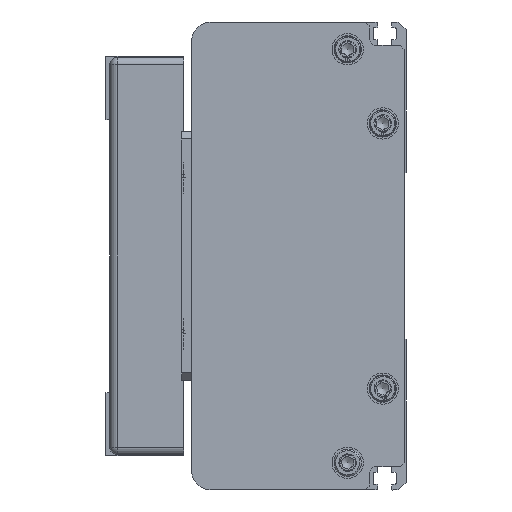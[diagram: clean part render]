
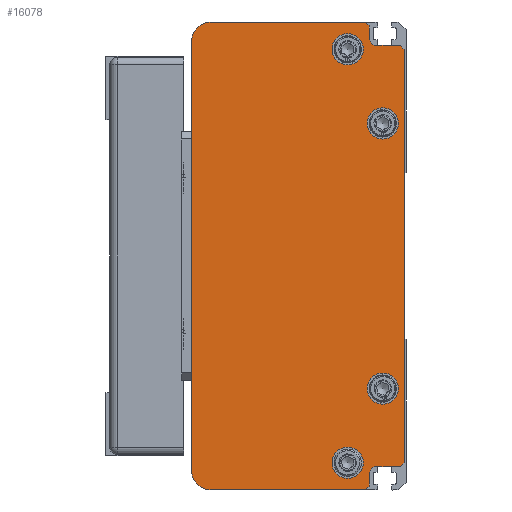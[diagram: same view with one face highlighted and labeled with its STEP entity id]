
A CAD part, left-side view. The second image highlights one B-rep face of the part: STEP entity #16078.
In plain terms, the highlighted planar face has unit normal (-1, 0, 0) as drawn and (0, 0, -1) by its records, which use the part's own axes.
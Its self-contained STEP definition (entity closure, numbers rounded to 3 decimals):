
#852=FACE_BOUND('',#2695,.T.);
#853=FACE_BOUND('',#2696,.T.);
#854=FACE_BOUND('',#2697,.T.);
#855=FACE_BOUND('',#2698,.T.);
#1192=CIRCLE('',#17242,5.);
#1193=CIRCLE('',#17244,5.);
#1194=CIRCLE('',#17245,2.);
#1195=CIRCLE('',#17246,2.);
#1196=CIRCLE('',#17247,4.);
#1197=CIRCLE('',#17248,4.);
#1198=CIRCLE('',#17249,4.);
#1199=CIRCLE('',#17250,4.);
#1640=FACE_OUTER_BOUND('',#2694,.T.);
#2694=EDGE_LOOP('',(#11100,#11101,#11102,#11103,#11104,#11105,#11106,#11107,
#11108,#11109,#11110,#11111,#11112,#11113,#11114,#11115));
#2695=EDGE_LOOP('',(#11116));
#2696=EDGE_LOOP('',(#11117));
#2697=EDGE_LOOP('',(#11118));
#2698=EDGE_LOOP('',(#11119));
#3945=LINE('',#23055,#5480);
#3946=LINE('',#23057,#5481);
#3947=LINE('',#23060,#5482);
#3948=LINE('',#23062,#5483);
#3949=LINE('',#23064,#5484);
#3950=LINE('',#23066,#5485);
#3951=LINE('',#23070,#5486);
#3952=LINE('',#23072,#5487);
#3953=LINE('',#23074,#5488);
#3954=LINE('',#23076,#5489);
#3955=LINE('',#23078,#5490);
#3956=LINE('',#23081,#5491);
#5480=VECTOR('',#18834,1.414);
#5481=VECTOR('',#18835,39.5);
#5482=VECTOR('',#18838,110.);
#5483=VECTOR('',#18839,39.5);
#5484=VECTOR('',#18840,1.414);
#5485=VECTOR('',#18841,3.);
#5486=VECTOR('',#18844,6.);
#5487=VECTOR('',#18845,1.414);
#5488=VECTOR('',#18846,106.);
#5489=VECTOR('',#18847,1.414);
#5490=VECTOR('',#18848,6.);
#5491=VECTOR('',#18851,3.);
#7065=VERTEX_POINT('',#23047);
#7066=VERTEX_POINT('',#23049);
#7067=VERTEX_POINT('',#23053);
#7068=VERTEX_POINT('',#23054);
#7069=VERTEX_POINT('',#23056);
#7070=VERTEX_POINT('',#23058);
#7071=VERTEX_POINT('',#23061);
#7072=VERTEX_POINT('',#23063);
#7073=VERTEX_POINT('',#23065);
#7074=VERTEX_POINT('',#23067);
#7075=VERTEX_POINT('',#23069);
#7076=VERTEX_POINT('',#23071);
#7077=VERTEX_POINT('',#23073);
#7078=VERTEX_POINT('',#23075);
#7079=VERTEX_POINT('',#23077);
#7080=VERTEX_POINT('',#23079);
#7081=VERTEX_POINT('',#23082);
#7082=VERTEX_POINT('',#23084);
#7083=VERTEX_POINT('',#23086);
#7084=VERTEX_POINT('',#23088);
#8677=EDGE_CURVE('',#7065,#7066,#1192,.T.);
#8679=EDGE_CURVE('',#7067,#7068,#3945,.T.);
#8680=EDGE_CURVE('',#7067,#7069,#3946,.T.);
#8681=EDGE_CURVE('',#7070,#7069,#1193,.T.);
#8682=EDGE_CURVE('',#7070,#7066,#3947,.T.);
#8683=EDGE_CURVE('',#7065,#7071,#3948,.T.);
#8684=EDGE_CURVE('',#7072,#7071,#3949,.T.);
#8685=EDGE_CURVE('',#7072,#7073,#3950,.T.);
#8686=EDGE_CURVE('',#7073,#7074,#1194,.T.);
#8687=EDGE_CURVE('',#7074,#7075,#3951,.T.);
#8688=EDGE_CURVE('',#7076,#7075,#3952,.T.);
#8689=EDGE_CURVE('',#7076,#7077,#3953,.T.);
#8690=EDGE_CURVE('',#7078,#7077,#3954,.T.);
#8691=EDGE_CURVE('',#7078,#7079,#3955,.T.);
#8692=EDGE_CURVE('',#7079,#7080,#1195,.T.);
#8693=EDGE_CURVE('',#7080,#7068,#3956,.T.);
#8694=EDGE_CURVE('',#7081,#7081,#1196,.T.);
#8695=EDGE_CURVE('',#7082,#7082,#1197,.T.);
#8696=EDGE_CURVE('',#7083,#7083,#1198,.T.);
#8697=EDGE_CURVE('',#7084,#7084,#1199,.T.);
#11100=ORIENTED_EDGE('',*,*,#8679,.F.);
#11101=ORIENTED_EDGE('',*,*,#8680,.T.);
#11102=ORIENTED_EDGE('',*,*,#8681,.F.);
#11103=ORIENTED_EDGE('',*,*,#8682,.T.);
#11104=ORIENTED_EDGE('',*,*,#8677,.F.);
#11105=ORIENTED_EDGE('',*,*,#8683,.T.);
#11106=ORIENTED_EDGE('',*,*,#8684,.F.);
#11107=ORIENTED_EDGE('',*,*,#8685,.T.);
#11108=ORIENTED_EDGE('',*,*,#8686,.T.);
#11109=ORIENTED_EDGE('',*,*,#8687,.T.);
#11110=ORIENTED_EDGE('',*,*,#8688,.F.);
#11111=ORIENTED_EDGE('',*,*,#8689,.T.);
#11112=ORIENTED_EDGE('',*,*,#8690,.F.);
#11113=ORIENTED_EDGE('',*,*,#8691,.T.);
#11114=ORIENTED_EDGE('',*,*,#8692,.T.);
#11115=ORIENTED_EDGE('',*,*,#8693,.T.);
#11116=ORIENTED_EDGE('',*,*,#8694,.T.);
#11117=ORIENTED_EDGE('',*,*,#8695,.T.);
#11118=ORIENTED_EDGE('',*,*,#8696,.T.);
#11119=ORIENTED_EDGE('',*,*,#8697,.T.);
#15438=PLANE('',#17243);
#16078=ADVANCED_FACE('',(#1640,#852,#853,#854,#855),#15438,.F.);
#17242=AXIS2_PLACEMENT_3D('',#23050,#18829,#18830);
#17243=AXIS2_PLACEMENT_3D('',#23052,#18832,#18833);
#17244=AXIS2_PLACEMENT_3D('',#23059,#18836,#18837);
#17245=AXIS2_PLACEMENT_3D('',#23068,#18842,#18843);
#17246=AXIS2_PLACEMENT_3D('',#23080,#18849,#18850);
#17247=AXIS2_PLACEMENT_3D('',#23083,#18852,#18853);
#17248=AXIS2_PLACEMENT_3D('',#23085,#18854,#18855);
#17249=AXIS2_PLACEMENT_3D('',#23087,#18856,#18857);
#17250=AXIS2_PLACEMENT_3D('',#23089,#18858,#18859);
#18829=DIRECTION('center_axis',(0.,0.,
1.));
#18830=DIRECTION('ref_axis',(0.707,0.707,0.));
#18832=DIRECTION('center_axis',(0.,0.,
1.));
#18833=DIRECTION('ref_axis',(-1.,-0.018,0.));
#18834=DIRECTION('',(0.707,-0.707,0.));
#18835=DIRECTION('',(0.,1.,0.));
#18836=DIRECTION('center_axis',(0.,0.,
1.));
#18837=DIRECTION('ref_axis',(-0.707,0.707,0.));
#18838=DIRECTION('',(1.,0.,0.));
#18839=DIRECTION('',(0.,-1.,0.));
#18840=DIRECTION('',(0.707,0.707,0.));
#18841=DIRECTION('',(-1.,0.,0.));
#18842=DIRECTION('center_axis',(0.,0.,
1.));
#18843=DIRECTION('ref_axis',(0.,-1.,0.));
#18844=DIRECTION('',(0.,-1.,0.));
#18845=DIRECTION('',(0.707,0.707,0.));
#18846=DIRECTION('',(-1.,0.,0.));
#18847=DIRECTION('',(0.707,-0.707,0.));
#18848=DIRECTION('',(0.,1.,0.));
#18849=DIRECTION('center_axis',(0.,0.,
1.));
#18850=DIRECTION('ref_axis',(1.,0.,0.));
#18851=DIRECTION('',(-1.,0.,0.));
#18852=DIRECTION('center_axis',(0.,0.,
1.));
#18853=DIRECTION('ref_axis',(0.,1.,0.));
#18854=DIRECTION('center_axis',(0.,0.,
1.));
#18855=DIRECTION('ref_axis',(0.,1.,0.));
#18856=DIRECTION('center_axis',(0.,0.,
1.));
#18857=DIRECTION('ref_axis',(0.,1.,0.));
#18858=DIRECTION('center_axis',(0.,0.,
1.));
#18859=DIRECTION('ref_axis',(0.,1.,0.));
#23047=CARTESIAN_POINT('',(124.75,50.75,-1542.5));
#23049=CARTESIAN_POINT('',(119.75,55.75,-1542.5));
#23050=CARTESIAN_POINT('Origin',(119.75,50.75,-1542.5));
#23052=CARTESIAN_POINT('Origin',(64.75,28.5,-1542.5));
#23053=CARTESIAN_POINT('',(4.75,11.25,-1542.5));
#23054=CARTESIAN_POINT('',(5.75,10.25,-1542.5));
#23055=CARTESIAN_POINT('',(4.75,11.25,-1542.5));
#23056=CARTESIAN_POINT('',(4.75,50.75,-1542.5));
#23057=CARTESIAN_POINT('',(4.75,11.25,-1542.5));
#23058=CARTESIAN_POINT('',(9.75,55.75,-1542.5));
#23059=CARTESIAN_POINT('Origin',(9.75,50.75,-1542.5));
#23060=CARTESIAN_POINT('',(9.75,55.75,-1542.5));
#23061=CARTESIAN_POINT('',(124.75,11.25,-1542.5));
#23062=CARTESIAN_POINT('',(124.75,50.75,-1542.5));
#23063=CARTESIAN_POINT('',(123.75,10.25,-1542.5));
#23064=CARTESIAN_POINT('',(123.75,10.25,-1542.5));
#23065=CARTESIAN_POINT('',(120.75,10.25,-1542.5));
#23066=CARTESIAN_POINT('',(123.75,10.25,-1542.5));
#23067=CARTESIAN_POINT('',(118.75,8.25,-1542.5));
#23068=CARTESIAN_POINT('Origin',(120.75,8.25,-1542.5));
#23069=CARTESIAN_POINT('',(118.75,2.25,-1542.5));
#23070=CARTESIAN_POINT('',(118.75,8.25,-1542.5));
#23071=CARTESIAN_POINT('',(117.75,1.25,-1542.5));
#23072=CARTESIAN_POINT('',(117.75,1.25,-1542.5));
#23073=CARTESIAN_POINT('',(11.75,1.25,-1542.5));
#23074=CARTESIAN_POINT('',(117.75,1.25,-1542.5));
#23075=CARTESIAN_POINT('',(10.75,2.25,-1542.5));
#23076=CARTESIAN_POINT('',(10.75,2.25,-1542.5));
#23077=CARTESIAN_POINT('',(10.75,8.25,-1542.5));
#23078=CARTESIAN_POINT('',(10.75,2.25,-1542.5));
#23079=CARTESIAN_POINT('',(8.75,10.25,-1542.5));
#23080=CARTESIAN_POINT('Origin',(8.75,8.25,-1542.5));
#23081=CARTESIAN_POINT('',(8.75,10.25,-1542.5));
#23082=CARTESIAN_POINT('',(30.75,10.75,-1542.5));
#23083=CARTESIAN_POINT('Origin',(30.75,6.75,-1542.5));
#23084=CARTESIAN_POINT('',(98.75,10.75,-1542.5));
#23085=CARTESIAN_POINT('Origin',(98.75,6.75,-1542.5));
#23086=CARTESIAN_POINT('',(11.75,19.75,-1542.5));
#23087=CARTESIAN_POINT('Origin',(11.75,15.75,-1542.5));
#23088=CARTESIAN_POINT('',(117.75,19.75,-1542.5));
#23089=CARTESIAN_POINT('Origin',(117.75,15.75,-1542.5));
